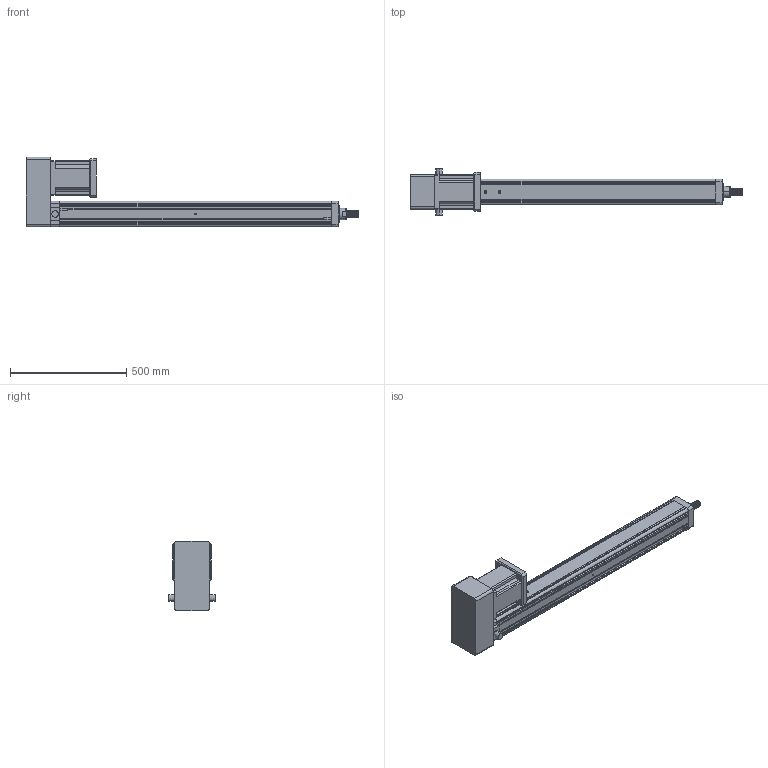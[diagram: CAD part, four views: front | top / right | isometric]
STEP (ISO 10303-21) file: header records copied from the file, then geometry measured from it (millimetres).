
FILE_DESCRIPTION (( 'STEP AP203' ), '1' );
FILE_NAME ('YRJ110-L1000-H4K1.STEP', '2020-01-06T01:16:02', ( 'User' ), ( 'China' ), 'SwSTEP 2.0', 'SolidWorks 2016', '' );
FILE_SCHEMA (( 'CONFIG_CONTROL_DESIGN' ));
Length unit declared in the file: millimetre
Products named in the file (7): 萇儂碟-110; 095-100俴最倰第; 142熬厒儂; YRJ110-L1000-H4K1; H5-110-1; H5-110-2; K1-110
Assembly tree (6 placements, depth 2):
  YRJ110-L1000-H4K1
    095-100俴最倰第
    142熬厒儂
    H5-110-1
    H5-110-2
    K1-110
    萇儂碟-110
Bounding box: 1431 x 200 x 300.5 mm (x, y, z)
Volume: 14608585.2 mm3; surface area: 1498702.8 mm2
Topology: 6 solids, 6 shells, 364 faces, 1001 edges, 648 vertices
Faces by surface type: plane 177, cylinder 156, cone 27, bspline 4
Entity records: 20204 total; most frequent: CARTESIAN_POINT 10355, ORIENTED_EDGE 1970, DIRECTION 1829, EDGE_CURVE 985, VERTEX_POINT 648, LINE 625, VECTOR 625, AXIS2_PLACEMENT_3D 602
